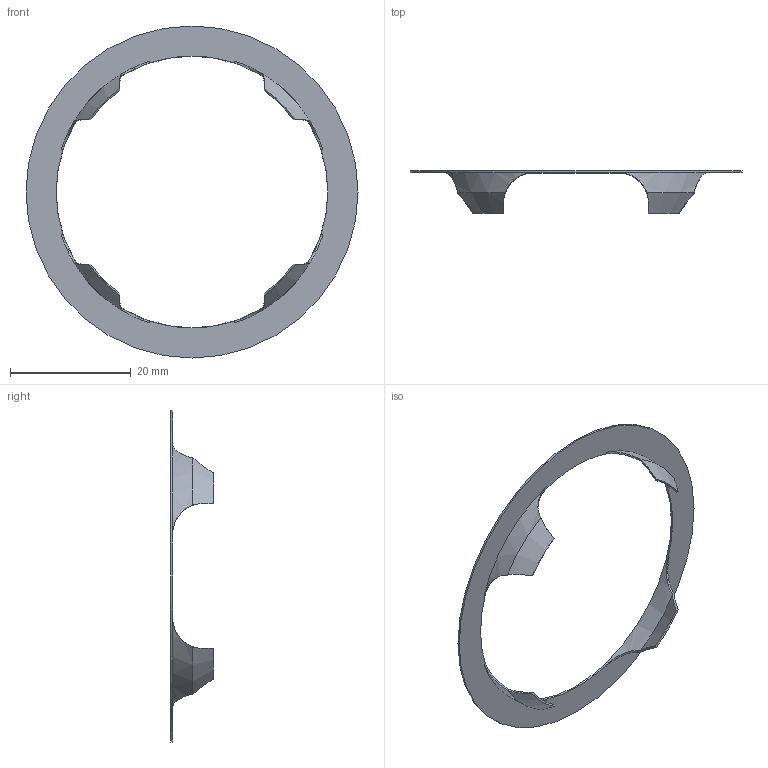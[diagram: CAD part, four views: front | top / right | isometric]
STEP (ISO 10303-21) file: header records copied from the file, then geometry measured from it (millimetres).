
FILE_DESCRIPTION (( 'STEP AP214' ), '1' );
FILE_NAME ('509.3-55-A.step', '2023-07-06T13:20:27', ( '' ), ( '' ), 'SwSTEP 2.0', 'SolidWorks 2022', '' );
FILE_SCHEMA (( 'AUTOMOTIVE_DESIGN' ));
Length unit declared in the file: millimetre
Products named in the file (1): 509.3-55-A
Bounding box: 55 x 7 x 55 mm (x, y, z)
Volume: 331 mm3; surface area: 2310.9 mm2
Topology: 1 solids, 1 shells, 38 faces, 108 edges, 72 vertices
Faces by surface type: cylinder 16, cone 12, plane 10
Entity records: 1518 total; most frequent: CARTESIAN_POINT 567, ORIENTED_EDGE 216, DIRECTION 162, EDGE_CURVE 108, VERTEX_POINT 72, AXIS2_PLACEMENT_3D 71, B_SPLINE_CURVE_WITH_KNOTS 56, EDGE_LOOP 40
